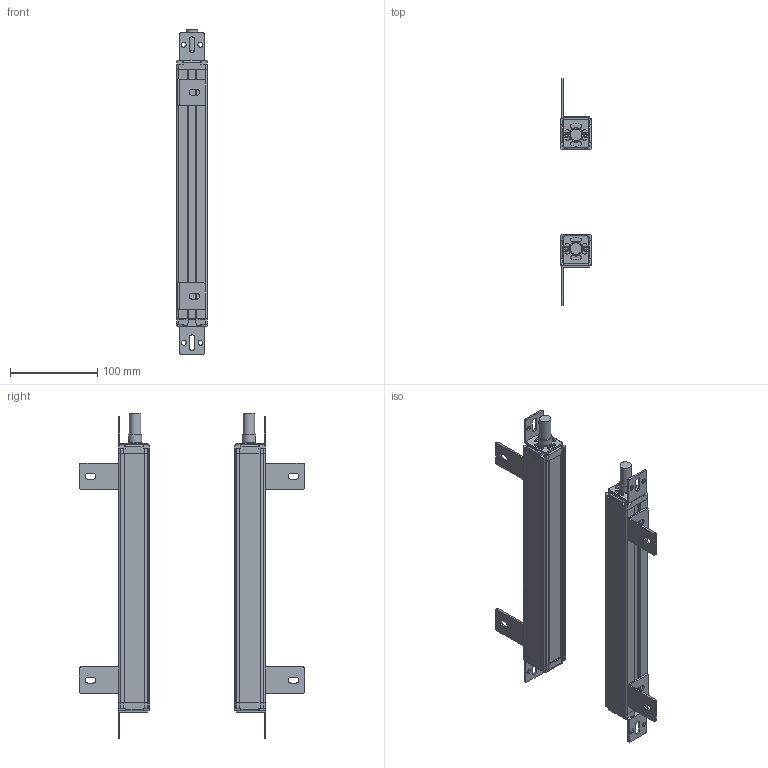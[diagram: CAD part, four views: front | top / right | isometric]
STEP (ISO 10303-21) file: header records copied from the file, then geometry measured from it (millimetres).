
FILE_DESCRIPTION(/* description */ (''),/* implementation_level */ '2;1');
FILE_NAME(/* name */ '2610_35X35_stp_stp.stp',/* time_stamp */ '2023-09-18T17:09:47+08:00',/* author */ (''),/* organization */ (''),/* preprocessor_version */ 'ST-DEVELOPER v16.7',/* originating_system */ 'SIEMENS PLM Software NX 12.0',/* authorisation */ '');
FILE_SCHEMA (('AP203_CONFIGURATION_CONTROLLED_3D_DESIGN_OF_MECHANICAL_PARTS_AND_ASSEMBLIES_MIM_LF { 1 0 10303 403 2 1 2}'));
Length unit declared in the file: millimetre
Products named in the file (1): 0420_35X35_stp_stp
Bounding box: 35.41 x 258.01 x 371.6 mm (x, y, z)
Volume: 332088.7 mm3; surface area: 258754.7 mm2
Topology: 28 solids, 28 shells, 1182 faces, 3360 edges, 2260 vertices
Faces by surface type: plane 658, cylinder 464, cone 60
Full cylindrical faces by diameter (mm): 3.2 x8, 6 x24, 13 x2, 14.4 x2, 15 x2
Entity records: 39055 total; most frequent: DIRECTION 6832, CARTESIAN_POINT 6745, ORIENTED_EDGE 6612, EDGE_CURVE 3306, AXIS2_PLACEMENT_3D 2347, VERTEX_POINT 2244, LINE 2138, VECTOR 2138
